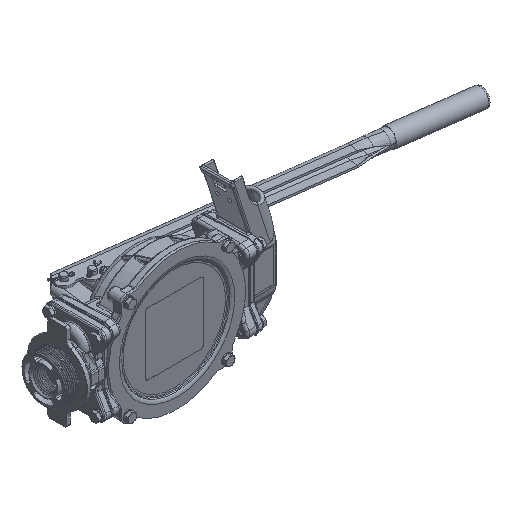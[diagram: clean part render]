
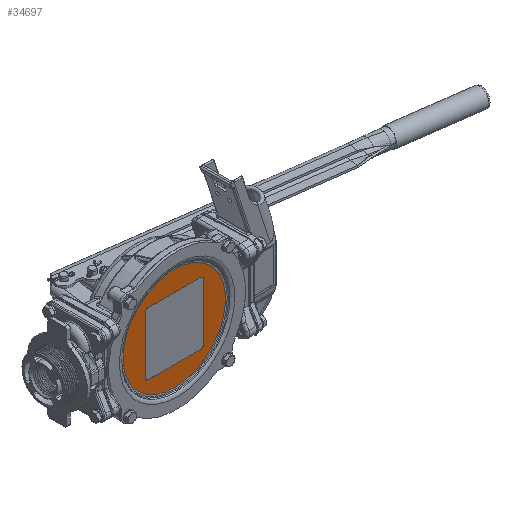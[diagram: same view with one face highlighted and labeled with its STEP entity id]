
A CAD part, isometric view. The second image highlights one B-rep face of the part: STEP entity #34697.
In plain terms, the highlighted planar face has unit normal (0, -1, 0).
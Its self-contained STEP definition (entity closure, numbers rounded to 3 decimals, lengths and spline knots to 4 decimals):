
#1167=FACE_BOUND('',#5648,.T.);
#1547=PLANE('',#37521);
#3522=FACE_OUTER_BOUND('',#5647,.T.);
#5647=EDGE_LOOP('',(#26571));
#5648=EDGE_LOOP('',(#26572,#26573,#26574,#26575,#26576,#26577,#26578,#26579));
#6833=CIRCLE('',#36019,0.125);
#6835=CIRCLE('',#36023,0.125);
#6837=CIRCLE('',#36026,0.125);
#6839=CIRCLE('',#36030,0.125);
#7571=CIRCLE('',#37522,2.6676);
#9664=LINE('',#55229,#11628);
#9669=LINE('',#55243,#11633);
#9674=LINE('',#55261,#11638);
#9678=LINE('',#55272,#11642);
#11628=VECTOR('',#40011,0.3937);
#11633=VECTOR('',#40024,0.3937);
#11638=VECTOR('',#40043,0.3937);
#11642=VECTOR('',#40055,0.3937);
#13837=VERTEX_POINT('',#55227);
#13838=VERTEX_POINT('',#55228);
#13841=VERTEX_POINT('',#55236);
#13843=VERTEX_POINT('',#55242);
#13845=VERTEX_POINT('',#55248);
#13847=VERTEX_POINT('',#55254);
#13849=VERTEX_POINT('',#55260);
#13851=VERTEX_POINT('',#55266);
#15095=VERTEX_POINT('',#71090);
#17025=EDGE_CURVE('',#13837,#13838,#9664,.T.);
#17029=EDGE_CURVE('',#13841,#13837,#6833,.T.);
#17032=EDGE_CURVE('',#13843,#13841,#9669,.T.);
#17035=EDGE_CURVE('',#13845,#13843,#6835,.T.);
#17038=EDGE_CURVE('',#13838,#13847,#6837,.T.);
#17041=EDGE_CURVE('',#13847,#13849,#9674,.T.);
#17044=EDGE_CURVE('',#13849,#13851,#6839,.T.);
#17047=EDGE_CURVE('',#13851,#13845,#9678,.T.);
#19177=EDGE_CURVE('',#15095,#15095,#7571,.T.);
#26571=ORIENTED_EDGE('',*,*,#19177,.T.);
#26572=ORIENTED_EDGE('',*,*,#17035,.T.);
#26573=ORIENTED_EDGE('',*,*,#17032,.T.);
#26574=ORIENTED_EDGE('',*,*,#17029,.T.);
#26575=ORIENTED_EDGE('',*,*,#17025,.T.);
#26576=ORIENTED_EDGE('',*,*,#17038,.T.);
#26577=ORIENTED_EDGE('',*,*,#17041,.T.);
#26578=ORIENTED_EDGE('',*,*,#17044,.T.);
#26579=ORIENTED_EDGE('',*,*,#17047,.T.);
#34697=ADVANCED_FACE('',(#3522,#1167),#1547,.F.);
#36019=AXIS2_PLACEMENT_3D('',#55237,#40017,#40018);
#36023=AXIS2_PLACEMENT_3D('',#55249,#40029,#40030);
#36026=AXIS2_PLACEMENT_3D('',#55255,#40036,#40037);
#36030=AXIS2_PLACEMENT_3D('',#55267,#40048,#40049);
#37521=AXIS2_PLACEMENT_3D('',#71089,#43684,#43685);
#37522=AXIS2_PLACEMENT_3D('',#71091,#43686,#43687);
#40011=DIRECTION('',(0.,0.,1.));
#40017=DIRECTION('center_axis',(0.,1.,0.));
#40018=DIRECTION('ref_axis',(-1.,0.,0.));
#40024=DIRECTION('',(-1.,0.,0.));
#40029=DIRECTION('center_axis',(0.,1.,0.));
#40030=DIRECTION('ref_axis',(0.,0.,
-1.));
#40036=DIRECTION('center_axis',(0.,1.,0.));
#40037=DIRECTION('ref_axis',(0.,0.,
1.));
#40043=DIRECTION('',(1.,0.,0.));
#40048=DIRECTION('center_axis',(0.,1.,0.));
#40049=DIRECTION('ref_axis',(1.,0.,0.));
#40055=DIRECTION('',(0.,0.,-1.));
#43684=DIRECTION('center_axis',(0.,1.,0.));
#43685=DIRECTION('ref_axis',(-1.,0.,0.));
#43686=DIRECTION('center_axis',(0.,-1.,0.));
#43687=DIRECTION('ref_axis',(0.,0.,-1.));
#55227=CARTESIAN_POINT('',(-1.5735,0.807,-1.4852));
#55228=CARTESIAN_POINT('',(-1.5735,0.807,1.5148));
#55229=CARTESIAN_POINT('',(-1.5735,0.807,-0.7352));
#55236=CARTESIAN_POINT('',(-1.4485,0.807,-1.6102));
#55237=CARTESIAN_POINT('Origin',(-1.4485,0.807,-1.4852));
#55242=CARTESIAN_POINT('',(1.3015,0.807,-1.6102));
#55243=CARTESIAN_POINT('',(0.614,0.807,-1.6102));
#55248=CARTESIAN_POINT('',(1.4265,0.807,-1.4852));
#55249=CARTESIAN_POINT('Origin',(1.3015,0.807,-1.4852));
#55254=CARTESIAN_POINT('',(-1.4485,0.807,1.6398));
#55255=CARTESIAN_POINT('Origin',(-1.4485,0.807,1.5148));
#55260=CARTESIAN_POINT('',(1.3015,0.807,1.6398));
#55261=CARTESIAN_POINT('',(-0.0735,0.807,1.6398));
#55266=CARTESIAN_POINT('',(1.4265,0.807,1.5148));
#55267=CARTESIAN_POINT('Origin',(1.3015,0.807,1.5148));
#55272=CARTESIAN_POINT('',(1.4265,0.807,0.7648));
#71089=CARTESIAN_POINT('Origin',(-0.0735,0.807,
0.0148));
#71090=CARTESIAN_POINT('',(-0.074,0.807,2.6819));
#71091=CARTESIAN_POINT('Origin',(-0.074,0.807,
0.0143));
